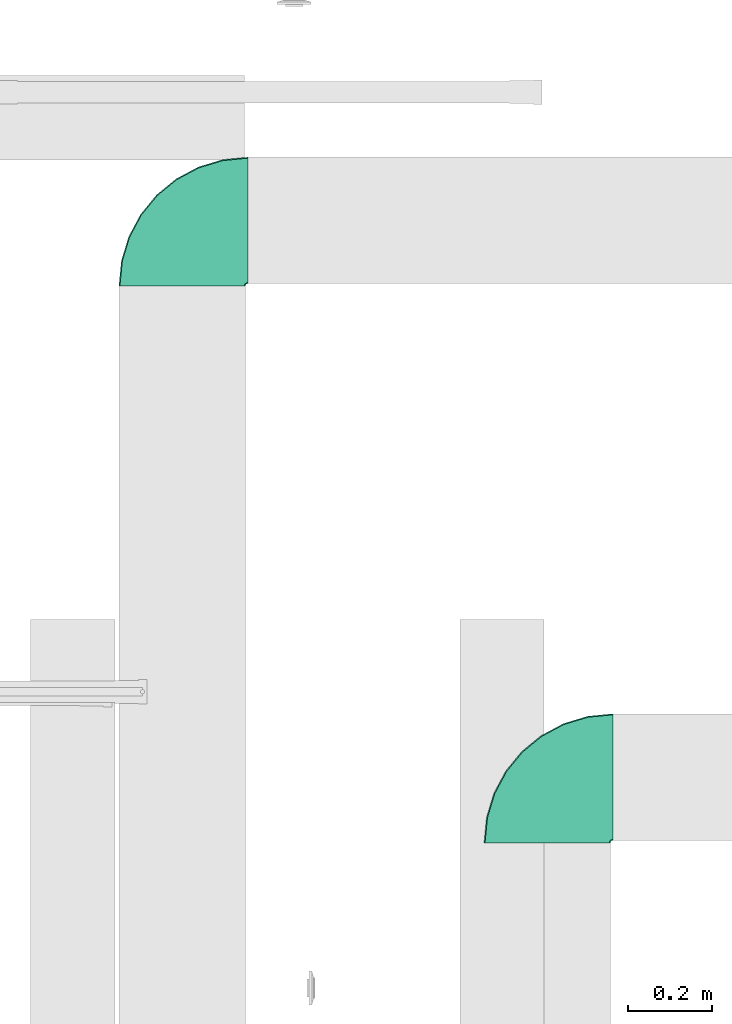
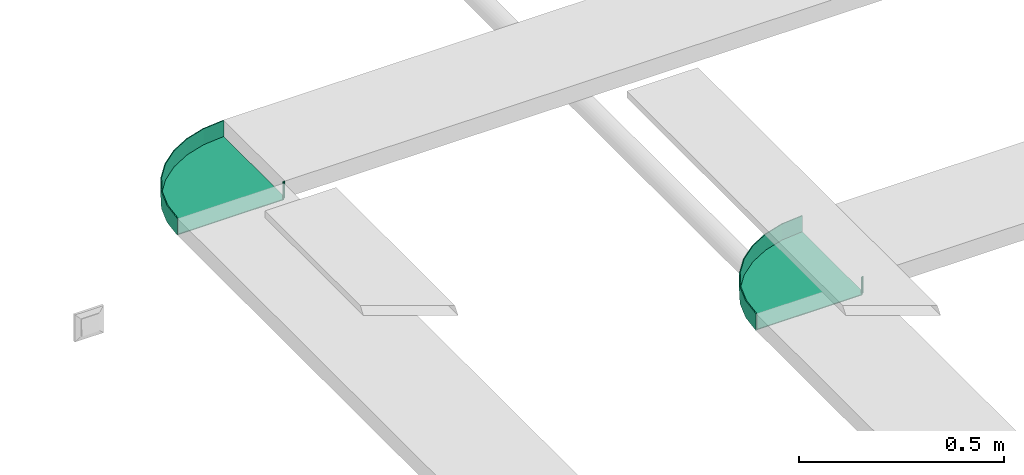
# One storey, part 43 of 153: 2 flow fittings.
"""IFC2X3 building model written with IfcOpenShell, lengths in metres."""

from ifc_helpers import new_model, entity, si_unit, converted_unit, derived_unit, direction, frame, origin, place, context, subcontext, project, spatial, faceted_brep, source, transform, mapped, type_object, type_shapes, element, save


model = new_model("IFC2X3")

# Units and contexts
model_context = context("Model", 3, precision=1e-05, world=origin(), true_north=direction((6.12303176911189e-17, 1.0)))
body_context = subcontext(model_context, "Body", "Model", "MODEL_VIEW")
ifc_project = project(units=[si_unit("LENGTHUNIT", "METRE"), si_unit("AREAUNIT", "SQUARE_METRE"), si_unit("VOLUMEUNIT", "CUBIC_METRE"), converted_unit("PLANEANGLEUNIT", "DEGREE", entity("IfcRatioMeasure", 0.0174532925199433), si_unit("PLANEANGLEUNIT", "RADIAN"), dimensions=[0, 0, 0, 0, 0, 0, 0]), si_unit("MASSUNIT", "GRAM", prefix="KILO"), derived_unit("MASSDENSITYUNIT", [(si_unit("MASSUNIT", "GRAM", prefix="KILO"), 1), (si_unit("LENGTHUNIT", "METRE"), -3)]), si_unit("TIMEUNIT", "SECOND"), si_unit("FREQUENCYUNIT", "HERTZ"), si_unit("THERMODYNAMICTEMPERATUREUNIT", "DEGREE_CELSIUS"), derived_unit("THERMALTRANSMITTANCEUNIT", [(si_unit("MASSUNIT", "GRAM", prefix="KILO"), 1), (si_unit("THERMODYNAMICTEMPERATUREUNIT", "KELVIN"), -1), (si_unit("TIMEUNIT", "SECOND"), -3)]), derived_unit("VOLUMETRICFLOWRATEUNIT", [(si_unit("LENGTHUNIT", "METRE"), 3), (si_unit("TIMEUNIT", "SECOND"), -1)]), si_unit("ELECTRICCURRENTUNIT", "AMPERE"), si_unit("ELECTRICVOLTAGEUNIT", "VOLT"), si_unit("POWERUNIT", "WATT"), si_unit("FORCEUNIT", "NEWTON"), si_unit("ILLUMINANCEUNIT", "LUX"), si_unit("LUMINOUSFLUXUNIT", "LUMEN"), si_unit("LUMINOUSINTENSITYUNIT", "CANDELA"), derived_unit("USERDEFINED", [(si_unit("MASSUNIT", "GRAM", prefix="KILO"), -1), (si_unit("LENGTHUNIT", "METRE"), -2), (si_unit("TIMEUNIT", "SECOND"), 3), (si_unit("LUMINOUSFLUXUNIT", "LUMEN"), 1)]), derived_unit("LINEARVELOCITYUNIT", [(si_unit("LENGTHUNIT", "METRE"), 1), (si_unit("TIMEUNIT", "SECOND"), -1)]), si_unit("PRESSUREUNIT", "PASCAL"), derived_unit("USERDEFINED", [(si_unit("LENGTHUNIT", "METRE"), -2), (si_unit("MASSUNIT", "GRAM", prefix="KILO"), 1), (si_unit("TIMEUNIT", "SECOND"), -2)])], contexts=[model_context])

# Site, building, storey
site_placement = place(None, origin())
site = spatial("IfcSite", under=ifc_project, at=site_placement, Name="Default", CompositionType="ELEMENT")
building_placement = place(site_placement, origin())
building = spatial("IfcBuilding", under=site, at=building_placement, CompositionType="ELEMENT")
storey_placement = place(building_placement, frame((0.0, 0.0, -4.62)))
storey = spatial("IfcBuildingStorey", under=building, at=storey_placement, Name="S02", CompositionType="ELEMENT", Elevation=-4.62)

# Flow fittings
cable_carrier_fitting_type = type_object("IfcCableCarrierFittingType", Name="E_Bend_Horizontal_CA_Generic_MEPcontent", PredefinedType="NOTDEFINED")
shared_shape = source(origin(), body_context, "Body", "Brep", [
    faceted_brep([(-0.149999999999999, 0.15507999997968, -0.025), (-0.149999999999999, 0.15507999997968, 0.025), (-0.147460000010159, 0.15507999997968, 0.025), (-0.147460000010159, 0.15507999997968, -0.02246000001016), (0.147460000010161, 0.15507999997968, -0.02246000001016), (0.147460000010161, 0.15507999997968, 0.025), (0.150000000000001, 0.15507999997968, 0.025), (0.150000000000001, 0.15507999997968, -0.025), (-0.155079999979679, -0.15, -0.025), (-0.155079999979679, -0.15, 0.025), (-0.155079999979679, -0.14746000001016, 0.025), (-0.155079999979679, -0.14746000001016, -0.02246000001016), (-0.155079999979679, 0.14746000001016, -0.02246000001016), (-0.155079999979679, 0.14746000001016, 0.025), (-0.155079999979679, 0.15, 0.025), (-0.155079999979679, 0.15, -0.025), (-0.15148789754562, 0.151487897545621, -0.025), (-0.15148789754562, 0.151487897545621, 0.025), (-0.14969184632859, 0.149691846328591, 0.025), (-0.0955618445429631, -0.144137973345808, 0.025), (-0.0383309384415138, -0.12677716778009, 0.025), (0.0144133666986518, -0.0985847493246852, 0.025), (0.0606441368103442, -0.0606441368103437, 0.025), (0.0985847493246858, -0.0144133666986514, 0.025), (0.126777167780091, 0.0383309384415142, 0.025), (0.144137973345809, 0.0955618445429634, 0.025), (0.141646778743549, 0.0960573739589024, 0.025), (0.124430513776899, 0.0393029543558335, 0.025), (0.0964728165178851, -0.013002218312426, 0.025), (0.0588480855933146, -0.058848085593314, 0.025), (0.0130022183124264, -0.0964728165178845, 0.025), (-0.0393029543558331, -0.124430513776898, 0.025), (-0.096057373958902, -0.141646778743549, 0.025), (-0.14969184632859, 0.149691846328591, -0.02246000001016), (-0.0960573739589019, -0.141646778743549, -0.02246000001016), (-0.0393029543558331, -0.124430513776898, -0.02246000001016), (0.0130022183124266, -0.0964728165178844, -0.02246000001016), (0.0588480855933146, -0.0588480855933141, -0.02246000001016), (0.096472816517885, -0.0130022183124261, -0.02246000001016), (0.124430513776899, 0.0393029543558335, -0.02246000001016), (0.141646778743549, 0.0960573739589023, -0.02246000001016), (-0.0955618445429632, -0.144137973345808, -0.025), (-0.0383309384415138, -0.12677716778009, -0.025), (0.0144133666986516, -0.0985847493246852, -0.025), (0.0606441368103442, -0.0606441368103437, -0.025), (0.0985847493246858, -0.0144133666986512, -0.025), (0.126777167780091, 0.0383309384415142, -0.025), (0.144137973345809, 0.0955618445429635, -0.025)], [[[0, 1, 2, 3, 4, 5, 6, 7]], [[8, 9, 10, 11, 12, 13, 14, 15]], [[16, 15, 14, 17]], [[17, 1, 0, 16]], [[13, 18, 2, 1, 17, 14]], [[10, 9, 19, 20, 21, 22, 23, 24, 25, 6, 5, 26, 27, 28, 29, 30, 31, 32]], [[13, 12, 33, 18]], [[18, 33, 3, 2]], [[12, 11, 34, 35, 36, 37, 38, 39, 40, 4, 3, 33]], [[34, 11, 10, 32]], [[31, 35, 34, 32]], [[35, 31, 30, 36]], [[29, 37, 36, 30]], [[39, 38, 28, 27]], [[40, 39, 27, 26]], [[4, 40, 26, 5]], [[29, 28, 38, 37]], [[19, 9, 8, 41]], [[41, 42, 20, 19]], [[43, 21, 20, 42]], [[44, 22, 21, 43]], [[23, 45, 46, 24]], [[24, 46, 47, 25]], [[25, 47, 7, 6]], [[44, 45, 23, 22]], [[41, 8, 15, 16, 0, 7, 47, 46, 45, 44, 43, 42]]]),
    faceted_brep([(0.150000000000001, 0.155079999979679, -0.025), (0.150000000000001, 0.155079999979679, 0.025), (0.147460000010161, 0.155079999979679, 0.025), (0.147460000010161, 0.155079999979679, -0.02246000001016), (-0.147460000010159, 0.15507999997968, -0.02246000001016), (-0.147460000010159, 0.15507999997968, 0.025), (-0.149999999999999, 0.15507999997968, 0.025), (-0.149999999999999, 0.15507999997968, -0.025), (0.150000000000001, 0.156079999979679, -0.025), (-0.149999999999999, 0.15607999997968, -0.025), (-0.149999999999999, 0.15607999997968, 0.025), (-0.147460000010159, 0.15607999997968, 0.025), (-0.147460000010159, 0.15607999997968, -0.02246000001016), (0.147460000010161, 0.156079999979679, -0.02246000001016), (0.147460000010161, 0.156079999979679, 0.025), (0.150000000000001, 0.156079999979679, 0.025)], [[[0, 1, 2, 3, 4, 5, 6, 7]], [[8, 9, 10, 11, 12, 13, 14, 15]], [[1, 0, 8, 15]], [[2, 1, 15, 14]], [[3, 2, 14, 13]], [[4, 3, 13, 12]], [[5, 4, 12, 11]], [[6, 5, 11, 10]], [[7, 6, 10, 9]], [[0, 7, 9, 8]]]),
    faceted_brep([(-0.155079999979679, 0.15, -0.025), (-0.155079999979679, 0.15, 0.025), (-0.155079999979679, 0.14746000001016, 0.025), (-0.155079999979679, 0.14746000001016, -0.02246000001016), (-0.155079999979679, -0.14746000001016, -0.02246000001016), (-0.155079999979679, -0.14746000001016, 0.025), (-0.155079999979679, -0.15, 0.025), (-0.155079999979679, -0.15, -0.025), (-0.156079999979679, 0.15, -0.025), (-0.156079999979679, -0.15, -0.025), (-0.156079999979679, -0.15, 0.025), (-0.156079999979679, -0.14746000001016, 0.025), (-0.156079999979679, -0.14746000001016, -0.02246000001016), (-0.156079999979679, 0.14746000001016, -0.02246000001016), (-0.156079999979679, 0.14746000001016, 0.025), (-0.156079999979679, 0.15, 0.025)], [[[0, 1, 2, 3, 4, 5, 6, 7]], [[8, 9, 10, 11, 12, 13, 14, 15]], [[1, 0, 8, 15]], [[2, 1, 15, 14]], [[3, 2, 14, 13]], [[4, 3, 13, 12]], [[5, 4, 12, 11]], [[6, 5, 11, 10]], [[7, 6, 10, 9]], [[0, 7, 9, 8]]]),
])
type_shapes(cable_carrier_fitting_type, [shared_shape])
for number, where, z_axis, x_axis in (
    (1, (37.0993394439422, -189.410389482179, 3.789), (0.0, 0.0, 1.0), (-1.0, 0.0, 0.0)),
    (2, (36.2335641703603, -188.090614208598, 3.57499980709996), (-1.23590478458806e-06, 0.0, 1.0), (-1.0, 0.0, -1.23590478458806e-06)),
):
    element("IfcFlowFitting", number, at=place(storey_placement, frame(where, z_axis=z_axis, x_axis=x_axis)), inside=storey, type_object=cable_carrier_fitting_type, Name="E_Bend_Horizontal_CA_Generic_MEPcontent:E_Bend_Horizontal_CA_Generic_MEPcontent", ObjectType="E_Bend_Horizontal_CA_Generic_MEPcontent:E_Bend_Horizontal_CA_Generic_MEPcontent", context=body_context, shape_type="MappedRepresentation", body=[
        mapped(shared_shape, transform((0.0, 0.0, 0.0), scale=1.0)),
    ])

save(model, "model.ifc")
